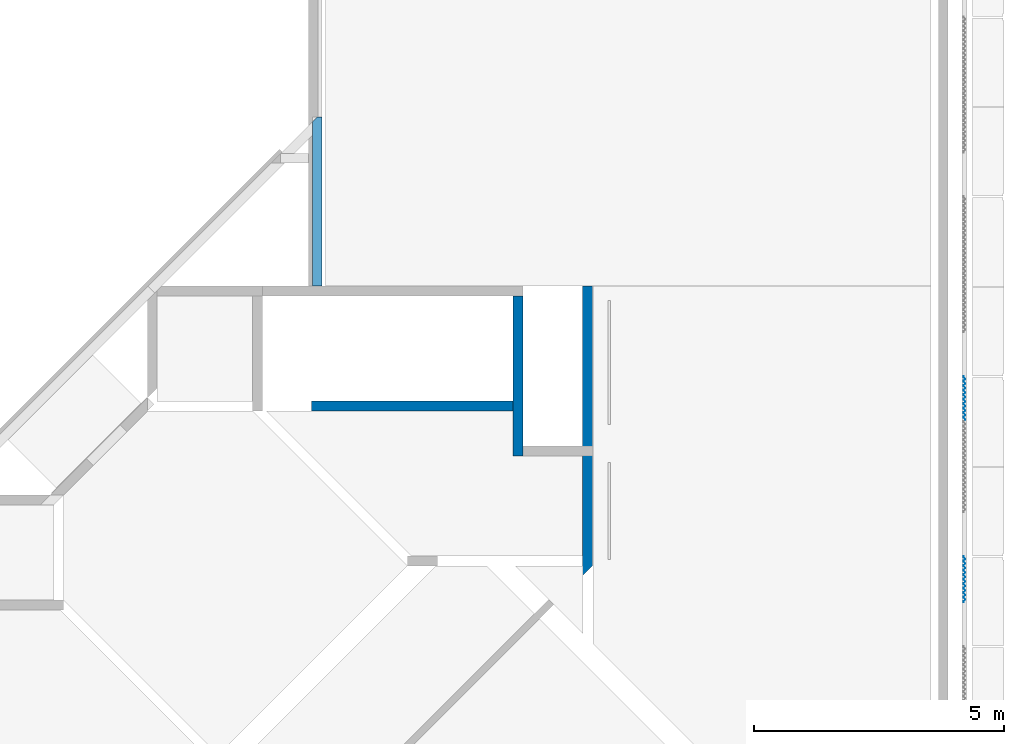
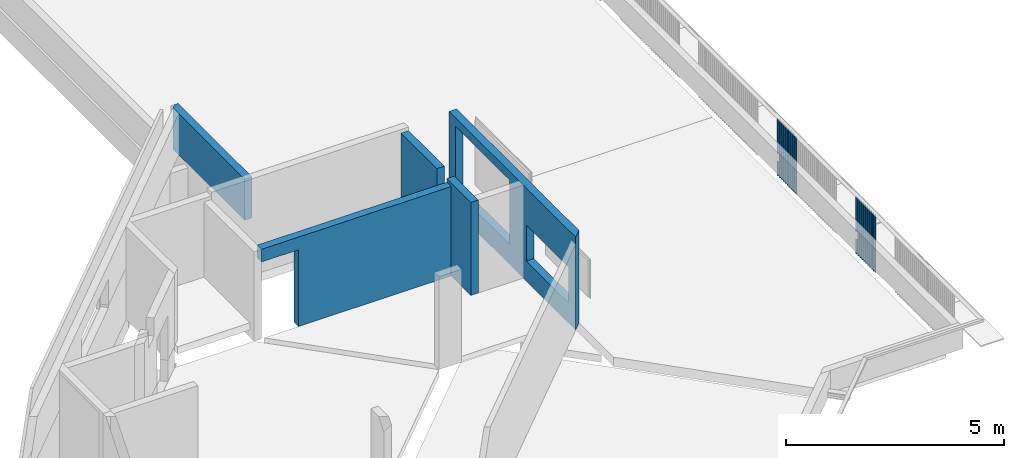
# One storey, part 27 of 37: 6 walls.
"""IFC4X3_ADD2 building model written with IfcOpenShell, lengths in millimetres."""

from ifc_helpers import new_model, si_unit, direction, frame, origin_with_axes, place, context, subcontext, project, spatial, polygons, element, save


model = new_model("IFC4X3_ADD2")

# Units and contexts
model_context = context("Model", 3, precision=1e-05, world=origin_with_axes(), true_north=direction((0.0, 1.0)))
body_context = subcontext(model_context, "Body", "Model", "MODEL_VIEW")
ifc_project = project(units=[si_unit("LENGTHUNIT", "METRE", prefix="MILLI"), si_unit("AREAUNIT", "SQUARE_METRE"), si_unit("VOLUMEUNIT", "CUBIC_METRE"), si_unit("PLANEANGLEUNIT", "RADIAN"), si_unit("TIMEUNIT", "SECOND"), si_unit("MASSUNIT", "GRAM")], contexts=[model_context])

# Site, building, storey
site_placement = place(None, origin_with_axes())
site = spatial("IfcSite", under=ifc_project, at=site_placement, Name="Site", CompositionType="ELEMENT")
building_placement = place(site_placement, origin_with_axes())
building = spatial("IfcBuilding", under=site, at=building_placement, Name="IFC Building Story")
storey_placement = place(building_placement, frame((0.0, 0.0, 14400.0), z_axis=(0.0, 0.0, 1.0), x_axis=(1.0, 0.0, 0.0)))
storey = spatial("IfcBuildingStorey", under=building, at=storey_placement, Name="040", Elevation=14400.0)

# Walls
wall_1_placement = place(storey_placement, frame((0.0, 0.0, -14400.0), z_axis=(0.0, 0.0, 1.0), x_axis=(1.0, 0.0, 0.0)))
element("IfcWall", 1, at=wall_1_placement, inside=storey, Name="Basic Wall:BB_XX_Wand uit beton, 200 mm", ObjectType="Basic Wall:BB_XX_Wand uit beton, 200 mm", PredefinedType="SOLIDWALL", context=body_context, shape_type="Tessellation", body=[
    polygons([(-8600.0, 19900.0, 14200.0), (-8600.0, 17800.00000000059, 14200.0), (-8600.0, 17600.00000000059, 14200.0), (-8600.0, 16700.00000000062, 14200.0), (-8600.0, 16700.00000000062, 16800.0), (-8600.000000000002, 17800.00000000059, 16800.0), (-8600.0, 17800.00000000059, 16700.0), (-8600.000000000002, 17800.00000000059, 16160.0), (-8600.0, 18260.00000000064, 16160.0), (-8600.0, 18260.00000000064, 16800.0), (-8600.0, 19900.0, 16800.0), (-8399.999999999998, 19900.0, 14200.0), (-8399.999999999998, 19900.0, 16800.0), (-8399.999999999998, 18260.00000000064, 16800.0), (-8399.999999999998, 18260.00000000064, 16160.0), (-8400.0, 17800.00000000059, 16160.0), (-8400.0, 17800.00000000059, 16800.0), (-8399.999999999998, 16900.00000000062, 16800.0), (-8399.999999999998, 16700.00000000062, 16800.0), (-8399.999999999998, 16700.00000000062, 14200.0), (-8399.999999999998, 16900.00000000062, 14200.0)], [[[3, 4, 5]], [[3, 5, 6]], [[8, 2, 3]], [[3, 7, 8]], [[3, 6, 7]], [[9, 10, 11]], [[11, 1, 2]], [[11, 2, 9]], [[2, 8, 9]], [[18, 19, 16]], [[16, 17, 18]], [[16, 19, 20]], [[16, 20, 21]], [[21, 15, 16]], [[15, 21, 12]], [[15, 12, 13]], [[13, 14, 15]], [[1, 11, 13, 12]], [[5, 4, 20, 19]], [[2, 1, 12]], [[2, 12, 21]], [[21, 3, 2]], [[21, 20, 4]], [[21, 4, 3]], [[18, 17, 6]], [[18, 6, 5]], [[5, 19, 18]], [[9, 8, 16, 15]], [[10, 9, 15, 14]], [[11, 10, 14, 13]], [[7, 6, 17]], [[17, 16, 8]], [[17, 8, 7]]]),
])
wall_2_placement = place(storey_placement, frame((0.0, 0.0, -14400.0), z_axis=(0.0, 0.0, 1.0), x_axis=(1.0, 0.0, 0.0)))
element("IfcWall", 2, at=wall_2_placement, inside=storey, Name="Basic Wall:BB_XX_Wand uit beton, 200 mm", ObjectType="Basic Wall:BB_XX_Wand uit beton, 200 mm", PredefinedType="SOLIDWALL", context=body_context, shape_type="Tessellation", body=[
    polygons([(-8600.000000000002, 17800.0, 14200.0), (-12638.0, 17800.0, 14200.0), (-12638.0, 17800.0, 16344.0), (-13615.00000000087, 17800.0, 16344.0), (-13615.00000000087, 17800.0, 16700.0), (-8600.000000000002, 17800.0, 16700.0), (-8600.0, 17800.0, 16160.0), (-8600.000000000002, 17600.0, 14200.0), (-8600.000000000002, 17600.0, 16700.0), (-13615.00000000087, 17600.0, 16700.0), (-13615.00000000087, 17600.0, 16344.0), (-12638.0, 17600.0, 16344.0), (-12638.0, 17600.0, 14200.0)], [[[3, 4, 5]], [[7, 1, 2]], [[7, 2, 3]], [[3, 5, 6]], [[3, 6, 7]], [[12, 13, 8]], [[12, 8, 9]], [[9, 10, 12]], [[10, 11, 12]], [[7, 6, 9]], [[9, 8, 1]], [[9, 1, 7]], [[2, 1, 8, 13]], [[5, 4, 11, 10]], [[6, 5, 10, 9]], [[3, 2, 13, 12]], [[4, 3, 12, 11]]]),
])
wall_3_placement = place(storey_placement, frame((0.0, 0.0, -14400.0), z_axis=(0.0, 0.0, 1.0), x_axis=(1.0, 0.0, 0.0)))
element("IfcWall", 3, at=wall_3_placement, inside=storey, Name="BB_07.10_Gevelbekleding_PuntProfiel, 900 mm, console rechts_GMO:900 x 1600 mm", ObjectType="BB_07.10_Gevelbekleding_PuntProfiel, 900 mm, console rechts_GMO:900 x 1600 mm", PredefinedType="NOTDEFINED", context=body_context, shape_type="Tessellation", body=[
    polygons([(435.0000000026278, 14620.00000000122, 14060.0), (433.5857864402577, 14620.00000000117, 14060.0), (448.5857864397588, 14635.0000000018, 14060.0), (415.0000000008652, 14668.58578643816, 14060.0), (415.0000000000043, 14691.41421356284, 14060.0), (416.000000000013, 14691.0000000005, 14060.0), (416.0000000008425, 14669.00000000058, 14060.0), (450.0000000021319, 14635.00000000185, 14060.0), (435.0000000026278, 14620.00000000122, 13860.0), (433.5857864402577, 14620.00000000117, 13860.0), (450.0000000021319, 14635.00000000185, 13860.0), (416.0000000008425, 14669.00000000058, 13860.0), (416.0000000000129, 14691.0000000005, 13860.0), (415.0000000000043, 14691.41421356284, 13860.0), (415.0000000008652, 14668.58578643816, 13860.0), (448.5857864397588, 14635.0000000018, 13860.0), (416.0000000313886, 13859.00000000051, 15040.0), (416.000000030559, 13881.00000000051, 15040.0), (450.000000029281, 13915.00000000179, 15040.0), (416.0000000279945, 13949.00000000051, 15040.0), (416.0000000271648, 13971.00000000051, 15040.0), (450.0000000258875, 14005.0000000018, 15040.0), (416.0000000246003, 14039.00000000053, 15040.0), (416.0000000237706, 14061.00000000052, 15040.0), (450.0000000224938, 14095.00000000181, 15040.0), (416.0000000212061, 14129.00000000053, 15040.0), (416.0000000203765, 14151.00000000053, 15040.0), (450.0000000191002, 14185.00000000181, 15040.0), (416.0000000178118, 14219.00000000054, 15040.0), (416.0000000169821, 14241.00000000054, 15040.0), (450.0000000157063, 14275.00000000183, 15040.0), (416.0000000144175, 14309.00000000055, 15040.0), (416.0000000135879, 14331.00000000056, 15040.0), (450.0000000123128, 14365.00000000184, 15040.0), (416.0000000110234, 14399.00000000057, 15040.0), (416.0000000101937, 14421.00000000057, 15040.0), (450.0000000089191, 14455.00000000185, 15040.0), (416.0000000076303, 14489.00000000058, 15040.0), (416.0000000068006, 14511.00000000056, 15040.0), (450.0000000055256, 14545.00000000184, 15040.0), (416.0000000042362, 14579.00000000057, 15040.0), (416.0000000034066, 14601.00000000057, 15040.0), (450.000000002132, 14635.00000000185, 15040.0), (416.0000000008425, 14669.00000000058, 15040.0), (416.000000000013, 14691.0000000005, 15040.0), (415.0000000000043, 14691.41421356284, 15040.0), (415.0000000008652, 14668.58578643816, 15040.0), (448.5857864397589, 14635.0000000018, 15040.0), (415.0000000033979, 14601.4142135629, 15040.0), (415.0000000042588, 14578.58578643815, 15040.0), (448.5857864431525, 14545.00000000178, 15040.0), (415.0000000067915, 14511.41421356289, 15040.0), (415.0000000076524, 14488.58578643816, 15040.0), (448.5857864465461, 14455.0000000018, 15040.0), (415.0000000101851, 14421.41421356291, 15040.0), (415.000000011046, 14398.58578643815, 15040.0), (448.5857864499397, 14365.00000000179, 15040.0), (415.0000000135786, 14331.41421356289, 15040.0), (415.0000000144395, 14308.58578643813, 15040.0), (448.5857864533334, 14275.00000000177, 15040.0), (415.0000000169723, 14241.41421356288, 15040.0), (415.0000000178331, 14218.58578643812, 15040.0), (448.5857864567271, 14185.00000000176, 15040.0), (415.000000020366, 14151.41421356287, 15040.0), (415.0000000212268, 14128.58578643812, 15040.0), (448.5857864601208, 14095.00000000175, 15040.0), (415.0000000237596, 14061.41421356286, 15040.0), (415.0000000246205, 14038.58578643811, 15040.0), (448.5857864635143, 14005.00000000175, 15040.0), (415.0000000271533, 13971.41421356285, 15040.0), (415.000000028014, 13948.5857864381, 15040.0), (448.585786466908, 13915.00000000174, 15040.0), (415.0000000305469, 13881.41421356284, 15040.0), (415.0000000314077, 13858.5857864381, 15040.0), (448.5857864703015, 13825.00000000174, 15040.0), (415.0000000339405, 13791.41421356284, 15040.0), (415.0000000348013, 13768.5857864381, 15040.0), (416.0000000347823, 13769.00000000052, 15040.0), (416.0000000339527, 13791.00000000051, 15040.0), (450.0000000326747, 13825.00000000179, 15040.0), (416.0000000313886, 13859.00000000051, 13440.0), (450.0000000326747, 13825.00000000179, 13440.0), (416.0000000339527, 13791.00000000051, 13440.0), (416.0000000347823, 13769.00000000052, 13440.0), (415.0000000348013, 13768.5857864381, 13440.0), (415.0000000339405, 13791.41421356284, 13440.0), (448.5857864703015, 13825.00000000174, 13440.0), (415.0000000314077, 13858.5857864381, 13440.0), (415.0000000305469, 13881.41421356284, 13440.0), (448.585786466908, 13915.00000000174, 13440.0), (415.000000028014, 13948.5857864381, 13440.0), (415.0000000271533, 13971.41421356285, 13440.0), (448.5857864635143, 14005.00000000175, 13440.0), (415.0000000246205, 14038.58578643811, 13440.0), (415.0000000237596, 14061.41421356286, 13440.0), (448.5857864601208, 14095.00000000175, 13440.0), (415.0000000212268, 14128.58578643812, 13440.0), (415.000000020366, 14151.41421356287, 13440.0), (448.5857864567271, 14185.00000000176, 13440.0), (415.0000000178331, 14218.58578643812, 13440.0), (415.0000000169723, 14241.41421356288, 13440.0), (448.5857864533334, 14275.00000000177, 13440.0), (415.0000000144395, 14308.58578643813, 13440.0), (415.0000000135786, 14331.41421356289, 13440.0), (448.5857864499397, 14365.00000000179, 13440.0), (415.000000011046, 14398.58578643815, 13440.0), (415.0000000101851, 14421.41421356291, 13440.0), (448.5857864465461, 14455.0000000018, 13440.0), (415.0000000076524, 14488.58578643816, 13440.0), (415.0000000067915, 14511.41421356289, 13440.0), (448.5857864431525, 14545.00000000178, 13440.0), (415.0000000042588, 14578.58578643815, 13440.0), (415.0000000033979, 14601.4142135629, 13440.0), (448.5857864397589, 14635.0000000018, 13440.0), (415.0000000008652, 14668.58578643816, 13440.0), (415.0000000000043, 14691.41421356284, 13440.0), (416.000000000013, 14691.0000000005, 13440.0), (416.0000000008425, 14669.00000000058, 13440.0), (450.000000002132, 14635.00000000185, 13440.0), (416.0000000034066, 14601.00000000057, 13440.0), (416.0000000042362, 14579.00000000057, 13440.0), (450.0000000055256, 14545.00000000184, 13440.0), (416.0000000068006, 14511.00000000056, 13440.0), (416.0000000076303, 14489.00000000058, 13440.0), (450.0000000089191, 14455.00000000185, 13440.0), (416.0000000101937, 14421.00000000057, 13440.0), (416.0000000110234, 14399.00000000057, 13440.0), (450.0000000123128, 14365.00000000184, 13440.0), (416.0000000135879, 14331.00000000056, 13440.0), (416.0000000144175, 14309.00000000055, 13440.0), (450.0000000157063, 14275.00000000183, 13440.0), (416.0000000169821, 14241.00000000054, 13440.0), (416.0000000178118, 14219.00000000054, 13440.0), (450.0000000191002, 14185.00000000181, 13440.0), (416.0000000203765, 14151.00000000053, 13440.0), (416.0000000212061, 14129.00000000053, 13440.0), (450.0000000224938, 14095.00000000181, 13440.0), (416.0000000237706, 14061.00000000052, 13440.0), (416.0000000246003, 14039.00000000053, 13440.0), (450.0000000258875, 14005.0000000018, 13440.0), (416.0000000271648, 13971.00000000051, 13440.0), (416.0000000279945, 13949.00000000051, 13440.0), (450.000000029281, 13915.00000000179, 13440.0), (416.000000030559, 13881.00000000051, 13440.0)], [[[7, 8, 3]], [[7, 3, 4]], [[4, 5, 6]], [[4, 6, 7]], [[8, 1, 2]], [[8, 2, 3]], [[2, 1, 9, 10]], [[12, 13, 14]], [[12, 14, 15]], [[16, 10, 9]], [[16, 9, 11]], [[11, 12, 15]], [[11, 15, 16]], [[44, 45, 46]], [[44, 46, 47]], [[48, 49, 42]], [[48, 42, 43]], [[43, 44, 47]], [[43, 47, 48]], [[49, 50, 41]], [[49, 41, 42]], [[51, 52, 39]], [[51, 39, 40]], [[40, 41, 50]], [[40, 50, 51]], [[52, 53, 38]], [[52, 38, 39]], [[54, 55, 36]], [[54, 36, 37]], [[37, 38, 53]], [[37, 53, 54]], [[55, 56, 35]], [[55, 35, 36]], [[57, 58, 33]], [[57, 33, 34]], [[34, 35, 56]], [[34, 56, 57]], [[58, 59, 32]], [[58, 32, 33]], [[60, 61, 30]], [[60, 30, 31]], [[31, 32, 59]], [[31, 59, 60]], [[61, 62, 29]], [[61, 29, 30]], [[63, 64, 27]], [[63, 27, 28]], [[28, 29, 62]], [[28, 62, 63]], [[64, 65, 26]], [[64, 26, 27]], [[66, 67, 24]], [[66, 24, 25]], [[25, 26, 65]], [[25, 65, 66]], [[67, 68, 23]], [[67, 23, 24]], [[69, 70, 21]], [[69, 21, 22]], [[22, 23, 68]], [[22, 68, 69]], [[70, 71, 20]], [[70, 20, 21]], [[72, 73, 18]], [[72, 18, 19]], [[19, 20, 71]], [[19, 71, 72]], [[73, 74, 17]], [[73, 17, 18]], [[79, 80, 75]], [[79, 75, 76]], [[76, 77, 78]], [[76, 78, 79]], [[80, 17, 74]], [[80, 74, 75]], [[83, 84, 85]], [[83, 85, 86]], [[87, 88, 81]], [[87, 81, 82]], [[82, 83, 86]], [[82, 86, 87]], [[118, 119, 114]], [[118, 114, 115]], [[115, 116, 117]], [[115, 117, 118]], [[121, 122, 111]], [[121, 111, 112]], [[112, 113, 120]], [[112, 120, 121]], [[113, 114, 119]], [[113, 119, 120]], [[124, 125, 108]], [[124, 108, 109]], [[109, 110, 123]], [[109, 123, 124]], [[110, 111, 122]], [[110, 122, 123]], [[127, 128, 105]], [[127, 105, 106]], [[106, 107, 126]], [[106, 126, 127]], [[107, 108, 125]], [[107, 125, 126]], [[130, 131, 102]], [[130, 102, 103]], [[103, 104, 129]], [[103, 129, 130]], [[104, 105, 128]], [[104, 128, 129]], [[133, 134, 99]], [[133, 99, 100]], [[100, 101, 132]], [[100, 132, 133]], [[101, 102, 131]], [[101, 131, 132]], [[136, 137, 96]], [[136, 96, 97]], [[97, 98, 135]], [[97, 135, 136]], [[98, 99, 134]], [[98, 134, 135]], [[139, 140, 93]], [[139, 93, 94]], [[94, 95, 138]], [[94, 138, 139]], [[95, 96, 137]], [[95, 137, 138]], [[142, 143, 90]], [[142, 90, 91]], [[91, 92, 141]], [[91, 141, 142]], [[92, 93, 140]], [[92, 140, 141]], [[144, 81, 88]], [[144, 88, 89]], [[89, 90, 143]], [[89, 143, 144]], [[18, 17, 81, 144]], [[19, 18, 144, 143]], [[20, 19, 143, 142]], [[21, 20, 142, 141]], [[22, 21, 141, 140]], [[23, 22, 140, 139]], [[24, 23, 139, 138]], [[25, 24, 138, 137]], [[26, 25, 137, 136]], [[27, 26, 136, 135]], [[28, 27, 135, 134]], [[29, 28, 134, 133]], [[30, 29, 133, 132]], [[31, 30, 132, 131]], [[32, 31, 131, 130]], [[33, 32, 130, 129]], [[34, 33, 129, 128]], [[35, 34, 128, 127]], [[36, 35, 127, 126]], [[37, 36, 126, 125]], [[38, 37, 125, 124]], [[54, 53, 109, 108]], [[55, 54, 108, 107]], [[56, 55, 107, 106]], [[57, 56, 106, 105]], [[58, 57, 105, 104]], [[59, 58, 104, 103]], [[60, 59, 103, 102]], [[61, 60, 102, 101]], [[62, 61, 101, 100]], [[63, 62, 100, 99]], [[64, 63, 99, 98]], [[65, 64, 98, 97]], [[66, 65, 97, 96]], [[67, 66, 96, 95]], [[68, 67, 95, 94]], [[69, 68, 94, 93]], [[70, 69, 93, 92]], [[71, 70, 92, 91]], [[72, 71, 91, 90]], [[73, 72, 90, 89]], [[74, 73, 89, 88]], [[80, 79, 83, 82]], [[17, 80, 82, 81]], [[39, 38, 124, 123]], [[40, 39, 123, 122]], [[41, 40, 122, 121]], [[42, 41, 121, 120]], [[1, 8, 43]], [[1, 43, 42]], [[42, 9, 1]], [[42, 120, 9]], [[120, 119, 11]], [[120, 11, 9]], [[44, 43, 8, 7]], [[45, 44, 7, 6]], [[47, 46, 5, 4]], [[48, 47, 4, 3]], [[10, 16, 114]], [[10, 114, 113]], [[113, 2, 10]], [[2, 113, 49]], [[49, 48, 2]], [[48, 3, 2]], [[50, 49, 113, 112]], [[51, 50, 112, 111]], [[52, 51, 111, 110]], [[53, 52, 110, 109]], [[75, 74, 88, 87]], [[76, 75, 87, 86]], [[46, 45, 6, 5]], [[77, 76, 86, 85]], [[78, 77, 85, 84]], [[79, 78, 84, 83]], [[117, 116, 14, 13]], [[115, 114, 16, 15]], [[116, 115, 15, 14]], [[118, 117, 13, 12]], [[119, 118, 12, 11]]]),
])
wall_4_placement = place(storey_placement, frame((0.0, 0.0, -14400.0), z_axis=(0.0, 0.0, 1.0), x_axis=(1.0, 0.0, 0.0)))
element("IfcWall", 4, at=wall_4_placement, inside=storey, Name="BB_07.10_Gevelbekleding_PuntProfiel, 900 mm, console rechts_GMO:900 x 1600 mm", ObjectType="BB_07.10_Gevelbekleding_PuntProfiel, 900 mm, console rechts_GMO:900 x 1600 mm", PredefinedType="NOTDEFINED", context=body_context, shape_type="Tessellation", body=[
    polygons([(435.0000000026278, 18220.00000000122, 14060.0), (433.5857864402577, 18220.00000000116, 14060.0), (448.5857864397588, 18235.0000000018, 14060.0), (415.0000000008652, 18268.58578643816, 14060.0), (415.0000000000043, 18291.41421356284, 14060.0), (416.000000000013, 18291.0000000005, 14060.0), (416.0000000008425, 18269.00000000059, 14060.0), (450.0000000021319, 18235.00000000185, 14060.0), (435.0000000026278, 18220.00000000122, 13860.0), (433.5857864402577, 18220.00000000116, 13860.0), (450.0000000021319, 18235.00000000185, 13860.0), (416.0000000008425, 18269.00000000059, 13860.0), (416.0000000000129, 18291.0000000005, 13860.0), (415.0000000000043, 18291.41421356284, 13860.0), (415.0000000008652, 18268.58578643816, 13860.0), (448.5857864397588, 18235.0000000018, 13860.0), (416.0000000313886, 17459.00000000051, 15040.0), (416.000000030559, 17481.00000000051, 15040.0), (450.000000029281, 17515.00000000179, 15040.0), (416.0000000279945, 17549.00000000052, 15040.0), (416.0000000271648, 17571.00000000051, 15040.0), (450.0000000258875, 17605.0000000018, 15040.0), (416.0000000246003, 17639.00000000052, 15040.0), (416.0000000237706, 17661.00000000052, 15040.0), (450.0000000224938, 17695.00000000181, 15040.0), (416.0000000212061, 17729.00000000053, 15040.0), (416.0000000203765, 17751.00000000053, 15040.0), (450.0000000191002, 17785.00000000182, 15040.0), (416.0000000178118, 17819.00000000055, 15040.0), (416.0000000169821, 17841.00000000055, 15040.0), (450.0000000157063, 17875.00000000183, 15040.0), (416.0000000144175, 17909.00000000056, 15040.0), (416.0000000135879, 17931.00000000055, 15040.0), (450.0000000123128, 17965.00000000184, 15040.0), (416.0000000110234, 17999.00000000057, 15040.0), (416.0000000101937, 18021.00000000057, 15040.0), (450.0000000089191, 18055.00000000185, 15040.0), (416.0000000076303, 18089.00000000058, 15040.0), (416.0000000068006, 18111.00000000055, 15040.0), (450.0000000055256, 18145.00000000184, 15040.0), (416.0000000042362, 18179.00000000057, 15040.0), (416.0000000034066, 18201.00000000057, 15040.0), (450.000000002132, 18235.00000000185, 15040.0), (416.0000000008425, 18269.00000000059, 15040.0), (416.000000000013, 18291.0000000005, 15040.0), (415.0000000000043, 18291.41421356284, 15040.0), (415.0000000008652, 18268.58578643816, 15040.0), (448.5857864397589, 18235.0000000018, 15040.0), (415.0000000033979, 18201.4142135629, 15040.0), (415.0000000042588, 18178.58578643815, 15040.0), (448.5857864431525, 18145.00000000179, 15040.0), (415.0000000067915, 18111.41421356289, 15040.0), (415.0000000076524, 18088.58578643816, 15040.0), (448.5857864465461, 18055.0000000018, 15040.0), (415.0000000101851, 18021.4142135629, 15040.0), (415.000000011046, 17998.58578643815, 15040.0), (448.5857864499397, 17965.00000000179, 15040.0), (415.0000000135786, 17931.41421356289, 15040.0), (415.0000000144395, 17908.58578643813, 15040.0), (448.5857864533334, 17875.00000000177, 15040.0), (415.0000000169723, 17841.41421356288, 15040.0), (415.0000000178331, 17818.58578643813, 15040.0), (448.5857864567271, 17785.00000000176, 15040.0), (415.000000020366, 17751.41421356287, 15040.0), (415.0000000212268, 17728.58578643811, 15040.0), (448.5857864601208, 17695.00000000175, 15040.0), (415.0000000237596, 17661.41421356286, 15040.0), (415.0000000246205, 17638.58578643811, 15040.0), (448.5857864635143, 17605.00000000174, 15040.0), (415.0000000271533, 17571.41421356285, 15040.0), (415.000000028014, 17548.5857864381, 15040.0), (448.585786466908, 17515.00000000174, 15040.0), (415.0000000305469, 17481.41421356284, 15040.0), (415.0000000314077, 17458.5857864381, 15040.0), (448.5857864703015, 17425.00000000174, 15040.0), (415.0000000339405, 17391.41421356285, 15040.0), (415.0000000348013, 17368.5857864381, 15040.0), (416.0000000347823, 17369.00000000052, 15040.0), (416.0000000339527, 17391.00000000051, 15040.0), (450.0000000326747, 17425.00000000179, 15040.0), (416.0000000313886, 17459.00000000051, 13440.0), (450.0000000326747, 17425.00000000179, 13440.0), (416.0000000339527, 17391.00000000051, 13440.0), (416.0000000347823, 17369.00000000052, 13440.0), (415.0000000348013, 17368.5857864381, 13440.0), (415.0000000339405, 17391.41421356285, 13440.0), (448.5857864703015, 17425.00000000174, 13440.0), (415.0000000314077, 17458.5857864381, 13440.0), (415.0000000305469, 17481.41421356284, 13440.0), (448.585786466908, 17515.00000000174, 13440.0), (415.000000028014, 17548.5857864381, 13440.0), (415.0000000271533, 17571.41421356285, 13440.0), (448.5857864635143, 17605.00000000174, 13440.0), (415.0000000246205, 17638.58578643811, 13440.0), (415.0000000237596, 17661.41421356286, 13440.0), (448.5857864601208, 17695.00000000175, 13440.0), (415.0000000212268, 17728.58578643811, 13440.0), (415.000000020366, 17751.41421356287, 13440.0), (448.5857864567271, 17785.00000000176, 13440.0), (415.0000000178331, 17818.58578643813, 13440.0), (415.0000000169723, 17841.41421356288, 13440.0), (448.5857864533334, 17875.00000000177, 13440.0), (415.0000000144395, 17908.58578643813, 13440.0), (415.0000000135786, 17931.41421356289, 13440.0), (448.5857864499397, 17965.00000000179, 13440.0), (415.000000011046, 17998.58578643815, 13440.0), (415.0000000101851, 18021.4142135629, 13440.0), (448.5857864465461, 18055.0000000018, 13440.0), (415.0000000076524, 18088.58578643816, 13440.0), (415.0000000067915, 18111.41421356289, 13440.0), (448.5857864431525, 18145.00000000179, 13440.0), (415.0000000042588, 18178.58578643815, 13440.0), (415.0000000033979, 18201.4142135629, 13440.0), (448.5857864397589, 18235.0000000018, 13440.0), (415.0000000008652, 18268.58578643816, 13440.0), (415.0000000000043, 18291.41421356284, 13440.0), (416.000000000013, 18291.0000000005, 13440.0), (416.0000000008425, 18269.00000000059, 13440.0), (450.000000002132, 18235.00000000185, 13440.0), (416.0000000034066, 18201.00000000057, 13440.0), (416.0000000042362, 18179.00000000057, 13440.0), (450.0000000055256, 18145.00000000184, 13440.0), (416.0000000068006, 18111.00000000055, 13440.0), (416.0000000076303, 18089.00000000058, 13440.0), (450.0000000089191, 18055.00000000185, 13440.0), (416.0000000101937, 18021.00000000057, 13440.0), (416.0000000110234, 17999.00000000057, 13440.0), (450.0000000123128, 17965.00000000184, 13440.0), (416.0000000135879, 17931.00000000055, 13440.0), (416.0000000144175, 17909.00000000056, 13440.0), (450.0000000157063, 17875.00000000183, 13440.0), (416.0000000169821, 17841.00000000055, 13440.0), (416.0000000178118, 17819.00000000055, 13440.0), (450.0000000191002, 17785.00000000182, 13440.0), (416.0000000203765, 17751.00000000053, 13440.0), (416.0000000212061, 17729.00000000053, 13440.0), (450.0000000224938, 17695.00000000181, 13440.0), (416.0000000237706, 17661.00000000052, 13440.0), (416.0000000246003, 17639.00000000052, 13440.0), (450.0000000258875, 17605.0000000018, 13440.0), (416.0000000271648, 17571.00000000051, 13440.0), (416.0000000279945, 17549.00000000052, 13440.0), (450.000000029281, 17515.00000000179, 13440.0), (416.000000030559, 17481.00000000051, 13440.0)], [[[7, 8, 3]], [[7, 3, 4]], [[4, 5, 6]], [[4, 6, 7]], [[8, 1, 2]], [[8, 2, 3]], [[2, 1, 9, 10]], [[12, 13, 14]], [[12, 14, 15]], [[16, 10, 9]], [[16, 9, 11]], [[11, 12, 15]], [[11, 15, 16]], [[44, 45, 46]], [[44, 46, 47]], [[48, 49, 42]], [[48, 42, 43]], [[43, 44, 47]], [[43, 47, 48]], [[49, 50, 41]], [[49, 41, 42]], [[51, 52, 39]], [[51, 39, 40]], [[40, 41, 50]], [[40, 50, 51]], [[52, 53, 38]], [[52, 38, 39]], [[54, 55, 36]], [[54, 36, 37]], [[37, 38, 53]], [[37, 53, 54]], [[55, 56, 35]], [[55, 35, 36]], [[57, 58, 33]], [[57, 33, 34]], [[34, 35, 56]], [[34, 56, 57]], [[58, 59, 32]], [[58, 32, 33]], [[60, 61, 30]], [[60, 30, 31]], [[31, 32, 59]], [[31, 59, 60]], [[61, 62, 29]], [[61, 29, 30]], [[63, 64, 27]], [[63, 27, 28]], [[28, 29, 62]], [[28, 62, 63]], [[64, 65, 26]], [[64, 26, 27]], [[66, 67, 24]], [[66, 24, 25]], [[25, 26, 65]], [[25, 65, 66]], [[67, 68, 23]], [[67, 23, 24]], [[69, 70, 21]], [[69, 21, 22]], [[22, 23, 68]], [[22, 68, 69]], [[70, 71, 20]], [[70, 20, 21]], [[72, 73, 18]], [[72, 18, 19]], [[19, 20, 71]], [[19, 71, 72]], [[73, 74, 17]], [[73, 17, 18]], [[79, 80, 75]], [[79, 75, 76]], [[76, 77, 78]], [[76, 78, 79]], [[80, 17, 74]], [[80, 74, 75]], [[83, 84, 85]], [[83, 85, 86]], [[87, 88, 81]], [[87, 81, 82]], [[82, 83, 86]], [[82, 86, 87]], [[118, 119, 114]], [[118, 114, 115]], [[115, 116, 117]], [[115, 117, 118]], [[121, 122, 111]], [[121, 111, 112]], [[112, 113, 120]], [[112, 120, 121]], [[113, 114, 119]], [[113, 119, 120]], [[124, 125, 108]], [[124, 108, 109]], [[109, 110, 123]], [[109, 123, 124]], [[110, 111, 122]], [[110, 122, 123]], [[127, 128, 105]], [[127, 105, 106]], [[106, 107, 126]], [[106, 126, 127]], [[107, 108, 125]], [[107, 125, 126]], [[130, 131, 102]], [[130, 102, 103]], [[103, 104, 129]], [[103, 129, 130]], [[104, 105, 128]], [[104, 128, 129]], [[133, 134, 99]], [[133, 99, 100]], [[100, 101, 132]], [[100, 132, 133]], [[101, 102, 131]], [[101, 131, 132]], [[136, 137, 96]], [[136, 96, 97]], [[97, 98, 135]], [[97, 135, 136]], [[98, 99, 134]], [[98, 134, 135]], [[139, 140, 93]], [[139, 93, 94]], [[94, 95, 138]], [[94, 138, 139]], [[95, 96, 137]], [[95, 137, 138]], [[142, 143, 90]], [[142, 90, 91]], [[91, 92, 141]], [[91, 141, 142]], [[92, 93, 140]], [[92, 140, 141]], [[144, 81, 88]], [[144, 88, 89]], [[89, 90, 143]], [[89, 143, 144]], [[18, 17, 81, 144]], [[19, 18, 144, 143]], [[20, 19, 143, 142]], [[21, 20, 142, 141]], [[22, 21, 141, 140]], [[23, 22, 140, 139]], [[24, 23, 139, 138]], [[25, 24, 138, 137]], [[26, 25, 137, 136]], [[27, 26, 136, 135]], [[28, 27, 135, 134]], [[29, 28, 134, 133]], [[30, 29, 133, 132]], [[31, 30, 132, 131]], [[32, 31, 131, 130]], [[33, 32, 130, 129]], [[34, 33, 129, 128]], [[35, 34, 128, 127]], [[36, 35, 127, 126]], [[37, 36, 126, 125]], [[38, 37, 125, 124]], [[54, 53, 109, 108]], [[55, 54, 108, 107]], [[56, 55, 107, 106]], [[57, 56, 106, 105]], [[58, 57, 105, 104]], [[59, 58, 104, 103]], [[60, 59, 103, 102]], [[61, 60, 102, 101]], [[62, 61, 101, 100]], [[63, 62, 100, 99]], [[64, 63, 99, 98]], [[65, 64, 98, 97]], [[66, 65, 97, 96]], [[67, 66, 96, 95]], [[68, 67, 95, 94]], [[69, 68, 94, 93]], [[70, 69, 93, 92]], [[71, 70, 92, 91]], [[72, 71, 91, 90]], [[73, 72, 90, 89]], [[74, 73, 89, 88]], [[80, 79, 83, 82]], [[17, 80, 82, 81]], [[39, 38, 124, 123]], [[40, 39, 123, 122]], [[41, 40, 122, 121]], [[42, 41, 121, 120]], [[1, 8, 43]], [[1, 43, 42]], [[42, 9, 1]], [[42, 120, 9]], [[120, 119, 11]], [[120, 11, 9]], [[44, 43, 8, 7]], [[45, 44, 7, 6]], [[47, 46, 5, 4]], [[48, 47, 4, 3]], [[10, 16, 114]], [[10, 114, 113]], [[113, 2, 10]], [[2, 113, 49]], [[49, 48, 2]], [[48, 3, 2]], [[50, 49, 113, 112]], [[51, 50, 112, 111]], [[52, 51, 111, 110]], [[53, 52, 110, 109]], [[75, 74, 88, 87]], [[76, 75, 87, 86]], [[46, 45, 6, 5]], [[77, 76, 86, 85]], [[78, 77, 85, 84]], [[79, 78, 84, 83]], [[117, 116, 14, 13]], [[115, 114, 16, 15]], [[116, 115, 15, 14]], [[118, 117, 13, 12]], [[119, 118, 12, 11]]]),
])
wall_5_placement = place(storey_placement, frame((0.0, 0.0, -14400.0), z_axis=(0.0, 0.0, 1.0), x_axis=(1.0, 0.0, 0.0)))
element("IfcWall", 5, at=wall_5_placement, inside=storey, Name="Basic Wall:BB_XX_Wand uit beton, 200 mm", ObjectType="Basic Wall:BB_XX_Wand uit beton, 200 mm", PredefinedType="SOLIDWALL", context=body_context, shape_type="Tessellation", body=[
    polygons([(-7012.01042125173, 14500.1136270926, 14200.0), (-7012.01042125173, 20099.99999999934, 14200.0), (-7012.01042125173, 20099.99999999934, 16799.99999999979), (-7012.01042125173, 14500.1136270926, 16799.99999999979), (-7012.01042125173, 14635.12267117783, 15759.99999999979), (-7012.010421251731, 16565.12267117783, 15759.99999999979), (-7012.010421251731, 16565.12267117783, 14760.0), (-7012.01042125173, 14635.12267117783, 14760.0), (-7012.01042125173, 17330.12267117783, 16559.99999999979), (-7012.01042125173, 19804.99999999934, 16559.99999999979), (-7012.01042125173, 19804.99999999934, 14760.0), (-7012.01042125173, 17330.12267117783, 14760.0), (-7212.01042125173, 20099.99999999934, 16799.99999999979), (-7212.01042125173, 20099.99999999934, 14200.0), (-7212.01042125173, 14498.10352582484, 14200.0), (-7212.01042125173, 14300.1136270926, 14200.0), (-7212.01042125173, 14300.1136270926, 16600.0), (-7212.01042125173, 14300.1136270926, 16799.99999999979), (-7212.01042125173, 16565.12267117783, 15759.99999999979), (-7212.01042125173, 14635.12267117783, 15759.99999999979), (-7212.01042125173, 14635.12267117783, 14760.0), (-7212.01042125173, 16565.12267117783, 14760.0), (-7212.01042125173, 19804.99999999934, 16559.99999999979), (-7212.01042125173, 17330.12267117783, 16559.99999999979), (-7212.01042125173, 17330.12267117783, 14760.0), (-7212.01042125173, 19804.99999999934, 14760.0)], [[[8, 5, 4]], [[8, 4, 1]], [[1, 7, 8]], [[7, 1, 12]], [[12, 9, 6]], [[12, 6, 7]], [[1, 2, 12]], [[2, 11, 12]], [[2, 3, 10]], [[2, 10, 11]], [[3, 9, 10]], [[9, 3, 4]], [[4, 5, 6]], [[4, 6, 9]], [[15, 16, 17]], [[15, 17, 20]], [[24, 19, 20]], [[24, 20, 17]], [[24, 17, 18]], [[18, 13, 24]], [[13, 23, 24]], [[13, 14, 26]], [[13, 26, 23]], [[14, 25, 26]], [[14, 22, 25]], [[22, 19, 24]], [[22, 24, 25]], [[14, 15, 22]], [[15, 21, 22]], [[15, 20, 21]], [[15, 14, 2]], [[15, 2, 1]], [[1, 16, 15]], [[4, 3, 13, 18]], [[17, 16, 1]], [[17, 1, 4]], [[4, 18, 17]], [[2, 14, 13, 3]], [[5, 20, 19, 6]], [[7, 22, 21, 8]], [[20, 5, 8, 21]], [[6, 19, 22, 7]], [[9, 24, 23, 10]], [[11, 26, 25, 12]], [[24, 9, 12, 25]], [[10, 23, 26, 11]]]),
])
wall_6_placement = place(storey_placement, frame((0.0, 0.0, -14400.0), z_axis=(0.0, 0.0, 1.0), x_axis=(1.0, 0.0, 0.0)))
element("IfcWall", 6, at=wall_6_placement, inside=storey, Name="Basic Wall:BB_03.09.24#03_Wand uit metselwerk, 190 mm", ObjectType="Basic Wall:BB_03.09.24#03_Wand uit metselwerk, 190 mm", PredefinedType="SOLIDWALL", context=body_context, shape_type="Tessellation", body=[
    polygons([(-12430.0040658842, 20095.2939831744, 15650.0), (-12430.0040658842, 23479.64427159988, 15650.0), (-12430.0040658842, 23479.64427159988, 16800.0), (-12430.0040658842, 20095.2939831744, 16800.0), (-12620.0040658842, 20095.2939831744, 15650.0), (-12620.0040658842, 20095.2939831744, 16800.0), (-12620.0040658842, 23115.94369474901, 16800.0), (-12620.0040658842, 23384.64427159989, 16800.0), (-12620.0040658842, 23384.64427159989, 15650.0), (-12620.0040658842, 23115.94369474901, 15650.0), (-12525.00406588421, 23479.64427159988, 15650.0), (-12525.00406588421, 23479.64427159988, 16800.0)], [[[1, 2, 3, 4]], [[7, 8, 9]], [[7, 9, 10]], [[10, 5, 6]], [[10, 6, 7]], [[10, 9, 11]], [[10, 11, 2]], [[2, 1, 5]], [[2, 5, 10]], [[3, 2, 11, 12]], [[7, 6, 4]], [[7, 4, 3]], [[3, 12, 8]], [[3, 8, 7]], [[1, 4, 6, 5]], [[9, 8, 12, 11]]]),
])

save(model, "model.ifc")
